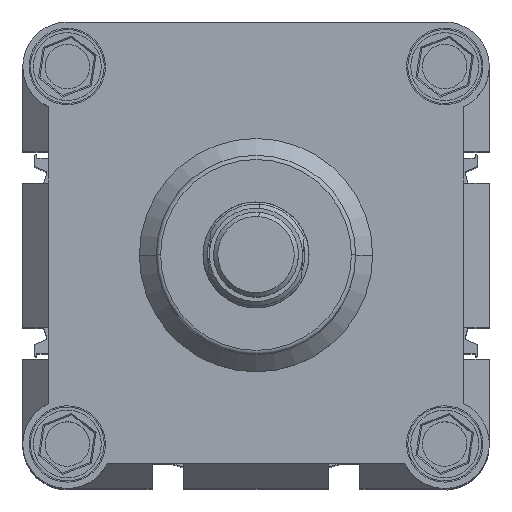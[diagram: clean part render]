
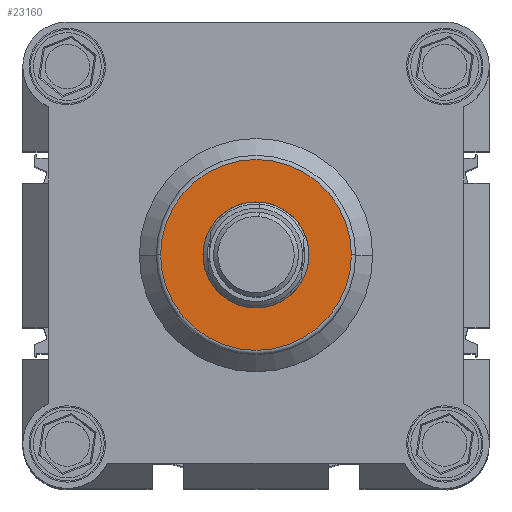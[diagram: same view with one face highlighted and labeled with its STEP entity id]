
A CAD part, top view. The second image highlights one B-rep face of the part: STEP entity #23160.
In plain terms, the highlighted planar face has unit normal (0, 0, 1).
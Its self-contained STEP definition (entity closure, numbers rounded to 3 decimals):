
#288 = VERTEX_POINT ( 'NONE', #19564 ) ;
#489 = EDGE_CURVE ( 'NONE', #8512, #17511, #16905, .T. ) ;
#1322 = CARTESIAN_POINT ( 'NONE',  ( 77.5, 55., 80. ) ) ;
#1641 = AXIS2_PLACEMENT_3D ( 'NONE', #17333, #19270, #22943 ) ;
#3512 = DIRECTION ( 'NONE',  ( 1., 0., 0. ) ) ;
#5907 = DIRECTION ( 'NONE',  ( 1., 0., 0. ) ) ;
#5958 = DIRECTION ( 'NONE',  ( 1., 0., 0. ) ) ;
#7621 = CIRCLE ( 'NONE', #1641, 22.5 ) ;
#7885 = DIRECTION ( 'NONE',  ( 1., 0., 0. ) ) ;
#8512 = VERTEX_POINT ( 'NONE', #11325 ) ;
#9219 = ORIENTED_EDGE ( 'NONE', *, *, #489, .T. ) ;
#9628 = CIRCLE ( 'NONE', #19652, 12.5 ) ;
#9880 = CIRCLE ( 'NONE', #18614, 12.5 ) ;
#10044 = DIRECTION ( 'NONE',  ( 0., 0., 1. ) ) ;
#10095 = AXIS2_PLACEMENT_3D ( 'NONE', #16783, #10044, #5958 ) ;
#11029 = EDGE_CURVE ( 'NONE', #288, #16796, #9628, .T. ) ;
#11325 = CARTESIAN_POINT ( 'NONE',  ( 32.5, 55., 80. ) ) ;
#11585 = EDGE_CURVE ( 'NONE', #17511, #8512, #7621, .T. ) ;
#11693 = EDGE_CURVE ( 'NONE', #16796, #288, #9880, .T. ) ;
#11851 = ORIENTED_EDGE ( 'NONE', *, *, #11029, .F. ) ;
#12374 = DIRECTION ( 'NONE',  ( 0., 0., 1. ) ) ;
#14250 = ORIENTED_EDGE ( 'NONE', *, *, #11585, .T. ) ;
#14263 = CARTESIAN_POINT ( 'NONE',  ( 55., 55., 80. ) ) ;
#14606 = FACE_BOUND ( 'NONE', #16110, .T. ) ;
#14858 = CARTESIAN_POINT ( 'NONE',  ( 55., 55., 80. ) ) ;
#15171 = CARTESIAN_POINT ( 'NONE',  ( 55., 55., 80. ) ) ;
#15987 = ORIENTED_EDGE ( 'NONE', *, *, #11693, .F. ) ;
#16110 = EDGE_LOOP ( 'NONE', ( #15987, #11851 ) ) ;
#16587 = DIRECTION ( 'NONE',  ( 0., 0., 1. ) ) ;
#16631 = PLANE ( 'NONE',  #10095 ) ;
#16783 = CARTESIAN_POINT ( 'NONE',  ( 55., 55., 80. ) ) ;
#16796 = VERTEX_POINT ( 'NONE', #22008 ) ;
#16905 = CIRCLE ( 'NONE', #22720, 22.5 ) ;
#17333 = CARTESIAN_POINT ( 'NONE',  ( 55., 55., 80. ) ) ;
#17511 = VERTEX_POINT ( 'NONE', #1322 ) ;
#17991 = FACE_OUTER_BOUND ( 'NONE', #18572, .T. ) ;
#18572 = EDGE_LOOP ( 'NONE', ( #14250, #9219 ) ) ;
#18614 = AXIS2_PLACEMENT_3D ( 'NONE', #14263, #12374, #3512 ) ;
#19270 = DIRECTION ( 'NONE',  ( 0., 0., 1. ) ) ;
#19564 = CARTESIAN_POINT ( 'NONE',  ( 42.5, 55., 80. ) ) ;
#19652 = AXIS2_PLACEMENT_3D ( 'NONE', #14858, #16587, #5907 ) ;
#22008 = CARTESIAN_POINT ( 'NONE',  ( 67.5, 55., 80. ) ) ;
#22119 = DIRECTION ( 'NONE',  ( 0., 0., 1. ) ) ;
#22720 = AXIS2_PLACEMENT_3D ( 'NONE', #15171, #22119, #7885 ) ;
#22943 = DIRECTION ( 'NONE',  ( 1., 0., 0. ) ) ;
#23160 = ADVANCED_FACE ( 'NONE', ( #14606, #17991 ), #16631, .T. ) ;
